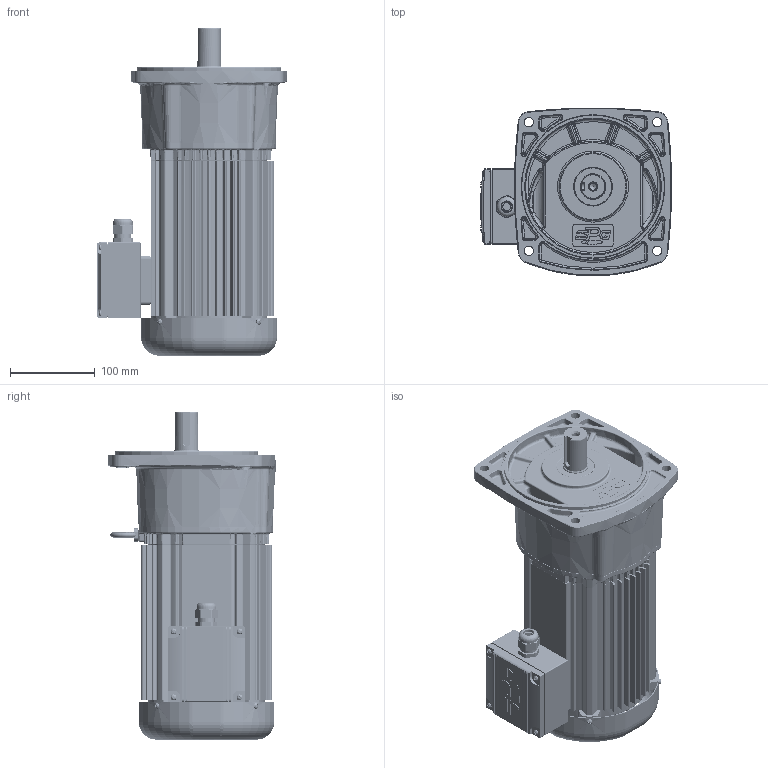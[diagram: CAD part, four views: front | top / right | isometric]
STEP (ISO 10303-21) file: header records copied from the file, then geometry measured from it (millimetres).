
FILE_DESCRIPTION(/* description */ (''),/* implementation_level */ '2;1');
FILE_NAME(/* name */ 'Z:\동력 3D 파일\PAF28_0.75kW_3D.stp',/* time_stamp */ '2021-11-08T15:32:47+09:00',/* author */ ('jaebok'),/* organization */ (''),/* preprocessor_version */ 'ST-DEVELOPER v18.1',/* originating_system */ 'Autodesk Inventor 2022',/* authorisation */ '');
FILE_SCHEMA (('AUTOMOTIVE_DESIGN { 1 0 10303 214 3 1 1 }'));
Products named in the file (1): 부품13
Bounding box: 225.74 x 198.24 x 387 mm (x, y, z)
Volume: 2050958.7 mm3; surface area: 720324.2 mm2
Topology: 2 solids, 27 shells, 4123 faces, 10501 edges, 6247 vertices
Faces by surface type: plane 1223, bspline 1118, cylinder 1027, torus 387, cone 225, sphere 143
Full cylindrical faces by diameter (mm): 2 x1, 3.25 x1, 3.5 x4, 3.6 x4, 4 x22, 4.2 x4, 4.917 x4, 5 x18, 5.5 x4, 6 x4, 6.647 x1, 7 x13, 8 x5, 8.376 x1, 8.5 x1, 10 x1, 12.5 x1, 15 x1, 18 x1, 19 x1, 20 x2, 20.6 x1, 21 x2, 23.6 x1, 25 x1, 27 x1, 27.6 x1, 28 x2, 30 x4, 32 x1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
Entity records: 167718 total; most frequent: CARTESIAN_POINT 72160, ORIENTED_EDGE 20430, DIRECTION 17518, EDGE_CURVE 10215, AXIS2_PLACEMENT_3D 7116, VERTEX_POINT 6247, EDGE_LOOP 4337, FACE_OUTER_BOUND 4123
